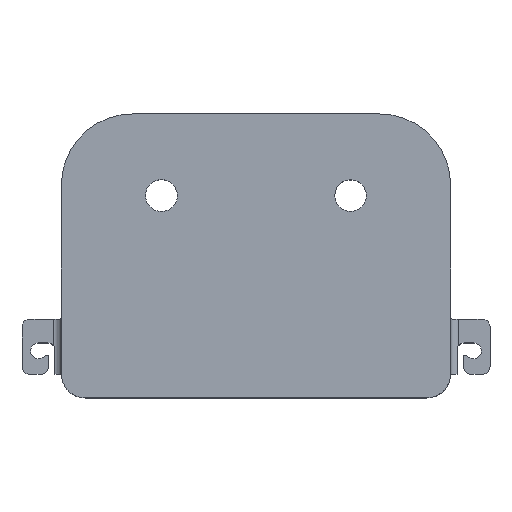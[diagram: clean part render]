
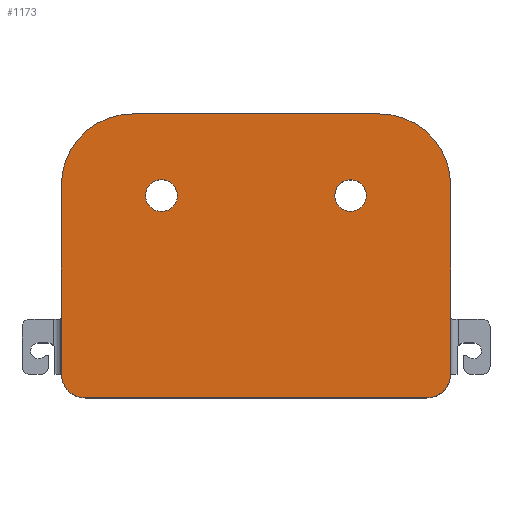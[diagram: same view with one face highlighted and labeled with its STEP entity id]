
A CAD part, top view. The second image highlights one B-rep face of the part: STEP entity #1173.
In plain terms, the highlighted planar face has unit normal (0, 0, 1).
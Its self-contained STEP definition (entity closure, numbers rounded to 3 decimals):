
#35=CARTESIAN_POINT('',(14.,6.,0.));
#36=VERTEX_POINT('',#35);
#37=CARTESIAN_POINT('',(12.,6.,0.));
#38=DIRECTION('',(1.,0.,-0.));
#39=DIRECTION('',(0.,-0.,-1.));
#40=AXIS2_PLACEMENT_3D('',#37,#39,#38);
#41=CIRCLE('',#40,2.);
#42=EDGE_CURVE('',#36,#36,#41,.T.);
#68=CARTESIAN_POINT('',(-9.971,6.,0.));
#69=VERTEX_POINT('',#68);
#70=CARTESIAN_POINT('',(-12.,6.,0.));
#71=DIRECTION('',(1.,0.,-0.));
#72=DIRECTION('',(0.,0.,-1.));
#73=AXIS2_PLACEMENT_3D('',#70,#72,#71);
#74=CIRCLE('',#73,2.029);
#75=EDGE_CURVE('',#69,#69,#74,.T.);
#111=CARTESIAN_POINT('',(-15.684,16.351,0.));
#112=VERTEX_POINT('',#111);
#119=CARTESIAN_POINT('',(15.684,16.351,0.));
#120=VERTEX_POINT('',#119);
#121=CARTESIAN_POINT('',(15.684,16.351,0.));
#122=DIRECTION('',(-1.,0.,0.));
#123=VECTOR('',#122,31.368);
#124=LINE('',#121,#123);
#125=EDGE_CURVE('',#120,#112,#124,.T.);
#181=CARTESIAN_POINT('',(24.684,7.351,0.));
#182=VERTEX_POINT('',#181);
#191=CARTESIAN_POINT('',(15.684,7.351,0.));
#192=DIRECTION('',(1.,0.,0.));
#193=DIRECTION('',(0.,0.,1.));
#194=AXIS2_PLACEMENT_3D('',#191,#193,#192);
#195=CIRCLE('',#194,9.);
#196=EDGE_CURVE('',#182,#120,#195,.T.);
#215=CARTESIAN_POINT('',(-24.684,7.351,0.));
#216=VERTEX_POINT('',#215);
#217=CARTESIAN_POINT('',(-15.684,7.351,0.));
#218=DIRECTION('',(0.,1.,0.));
#219=DIRECTION('',(0.,0.,1.));
#220=AXIS2_PLACEMENT_3D('',#217,#219,#218);
#221=CIRCLE('',#220,9.);
#222=EDGE_CURVE('',#112,#216,#221,.T.);
#1117=CARTESIAN_POINT('',(0.,5.035,0.));
#1118=DIRECTION('',(1.,0.,0.));
#1119=DIRECTION('',(0.,0.,1.));
#1120=AXIS2_PLACEMENT_3D('',#1117,#1119,#1118);
#1121=PLANE('',#1120);
#1122=ORIENTED_EDGE('',*,*,#196,.T.);
#1123=ORIENTED_EDGE('',*,*,#125,.T.);
#1124=ORIENTED_EDGE('',*,*,#222,.T.);
#1125=CARTESIAN_POINT('',(-24.684,-16.649,0.));
#1126=VERTEX_POINT('',#1125);
#1127=CARTESIAN_POINT('',(-24.684,7.351,0.));
#1128=DIRECTION('',(0.,-1.,0.));
#1129=VECTOR('',#1128,24.);
#1130=LINE('',#1127,#1129);
#1131=EDGE_CURVE('',#216,#1126,#1130,.T.);
#1132=ORIENTED_EDGE('E4',*,*,#1131,.T.);
#1133=CARTESIAN_POINT('',(-21.684,-19.649,0.));
#1134=VERTEX_POINT('',#1133);
#1135=CARTESIAN_POINT('',(-21.684,-16.649,0.));
#1136=DIRECTION('',(-1.,0.,0.));
#1137=DIRECTION('',(0.,0.,1.));
#1138=AXIS2_PLACEMENT_3D('',#1135,#1137,#1136);
#1139=CIRCLE('',#1138,3.);
#1140=EDGE_CURVE('',#1126,#1134,#1139,.T.);
#1141=ORIENTED_EDGE('E112',*,*,#1140,.T.);
#1142=CARTESIAN_POINT('',(21.684,-19.649,0.));
#1143=VERTEX_POINT('',#1142);
#1144=CARTESIAN_POINT('',(-21.684,-19.649,0.));
#1145=DIRECTION('',(1.,0.,0.));
#1146=VECTOR('',#1145,43.368);
#1147=LINE('',#1144,#1146);
#1148=EDGE_CURVE('',#1134,#1143,#1147,.T.);
#1149=ORIENTED_EDGE('E1',*,*,#1148,.T.);
#1150=CARTESIAN_POINT('',(24.684,-16.649,0.));
#1151=VERTEX_POINT('',#1150);
#1152=CARTESIAN_POINT('',(21.684,-16.649,0.));
#1153=DIRECTION('',(0.,-1.,0.));
#1154=DIRECTION('',(0.,0.,1.));
#1155=AXIS2_PLACEMENT_3D('',#1152,#1154,#1153);
#1156=CIRCLE('',#1155,3.);
#1157=EDGE_CURVE('',#1143,#1151,#1156,.T.);
#1158=ORIENTED_EDGE('E108',*,*,#1157,.T.);
#1159=CARTESIAN_POINT('',(24.684,-16.649,0.));
#1160=DIRECTION('',(0.,1.,0.));
#1161=VECTOR('',#1160,24.);
#1162=LINE('',#1159,#1161);
#1163=EDGE_CURVE('',#1151,#182,#1162,.T.);
#1164=ORIENTED_EDGE('E2',*,*,#1163,.T.);
#1165=EDGE_LOOP('',(#1122,#1123,#1124,#1132,#1141,#1149,#1158,#1164));
#1166=FACE_OUTER_BOUND('',#1165,.T.);
#1167=ORIENTED_EDGE('',*,*,#42,.T.);
#1168=EDGE_LOOP('',(#1167));
#1169=FACE_BOUND('',#1168,.T.);
#1170=ORIENTED_EDGE('',*,*,#75,.T.);
#1171=EDGE_LOOP('',(#1170));
#1172=FACE_BOUND('',#1171,.T.);
#1173=ADVANCED_FACE('F1',(#1166,#1169,#1172),#1121,.T.);
